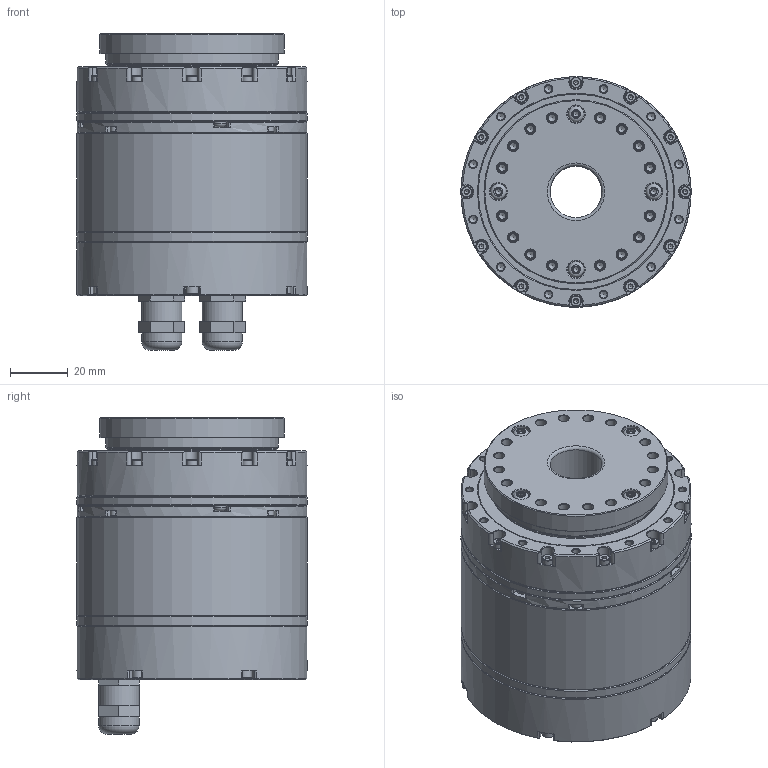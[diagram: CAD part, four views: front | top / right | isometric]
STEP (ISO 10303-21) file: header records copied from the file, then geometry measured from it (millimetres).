
FILE_DESCRIPTION(/* description */ (''),/* implementation_level */ '2;1');
FILE_NAME(/* name */ 'MIS17D-BF-C00.stp',/* time_stamp */ '2025-04-17T15:45:49+08:00',/* author */ (''),/* organization */ (''),/* preprocessor_version */ 'ST-DEVELOPER v16.7',/* originating_system */ 'SIEMENS PLM Software NX 12.0',/* authorisation */ '');
FILE_SCHEMA (('AUTOMOTIVE_DESIGN { 1 0 10303 214 3 1 1 1 }'));
Length unit declared in the file: millimetre
Products named in the file (1): MIS17D-BF-C00
Bounding box: 80 x 80 x 110 mm (x, y, z)
Volume: 201392.6 mm3; surface area: 141931.3 mm2
Topology: 51 solids, 55 shells, 2281 faces, 5001 edges, 2918 vertices
Faces by surface type: cone 880, plane 821, cylinder 491, torus 89
Full cylindrical faces by diameter (mm): 1.25 x4, 1.6 x10, 1.886 x22, 2 x2, 2.05 x30, 2.2 x6, 2.3 x4, 2.38 x6, 2.4 x4, 2.5 x76, 2.7 x12, 2.874 x8, 3 x6, 3.3 x8, 3.5 x42, 3.8 x16, 4.5 x10, 5.5 x4, 6 x4, 8 x8, 12 x6, 14 x4, 18 x1, 19 x1, 20 x2, 28 x2, 33.5 x1, 34 x1, 37 x2, 39 x1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
Entity records: 57983 total; most frequent: CARTESIAN_POINT 10911, DIRECTION 10230, ORIENTED_EDGE 7642, AXIS2_PLACEMENT_3D 4469, EDGE_CURVE 3821, EDGE_LOOP 3583, VERTEX_POINT 2750, FACE_BOUND 2491
